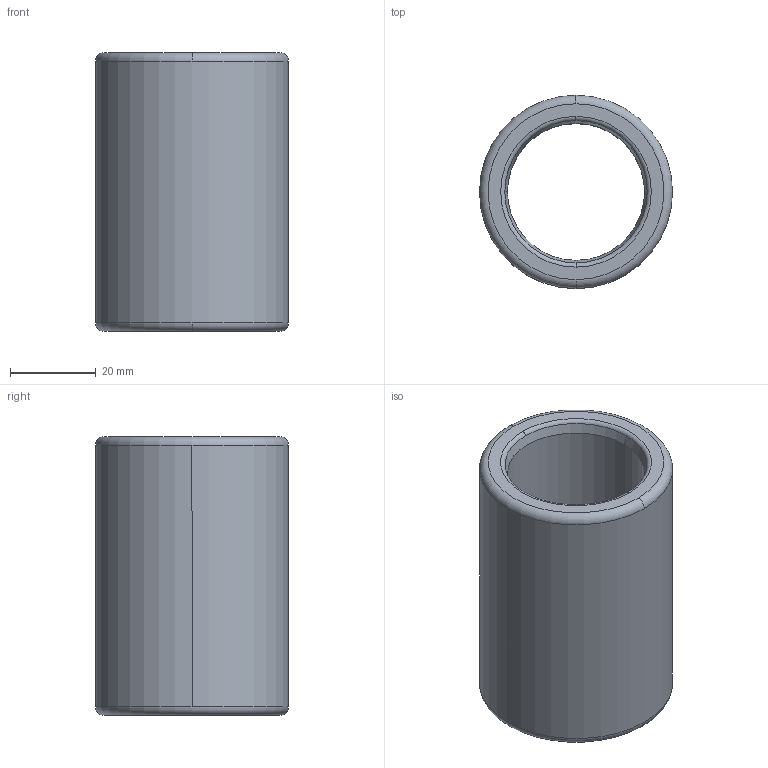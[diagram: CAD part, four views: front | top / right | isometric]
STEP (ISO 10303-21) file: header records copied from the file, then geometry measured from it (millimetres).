
FILE_DESCRIPTION((''),'2;1');
FILE_NAME('B30_024_065.stp','2009-01-12T09:56:08',(''),(''),'Mechanical Desktop 2009','Mechanical Desktop 2009',', , ');
FILE_SCHEMA(('CONFIG_CONTROL_DESIGN'));
Length unit declared in the file: millimetre
Products named in the file (2): Product; blmdl1
Assembly tree (1 placements, depth 2):
  Product
    blmdl1
Bounding box: 44.99 x 44.99 x 65 mm (x, y, z)
Volume: 50659.5 mm3; surface area: 16864.6 mm2
Topology: 1 solids, 1 shells, 18 faces, 48 edges, 32 vertices
Faces by surface type: torus 8, cylinder 4, cone 4, plane 2
Entity records: 705 total; most frequent: DIRECTION 128, CARTESIAN_POINT 100, ORIENTED_EDGE 96, AXIS2_PLACEMENT_3D 60, EDGE_CURVE 48, CIRCLE 40, VERTEX_POINT 32, EDGE_LOOP 20
